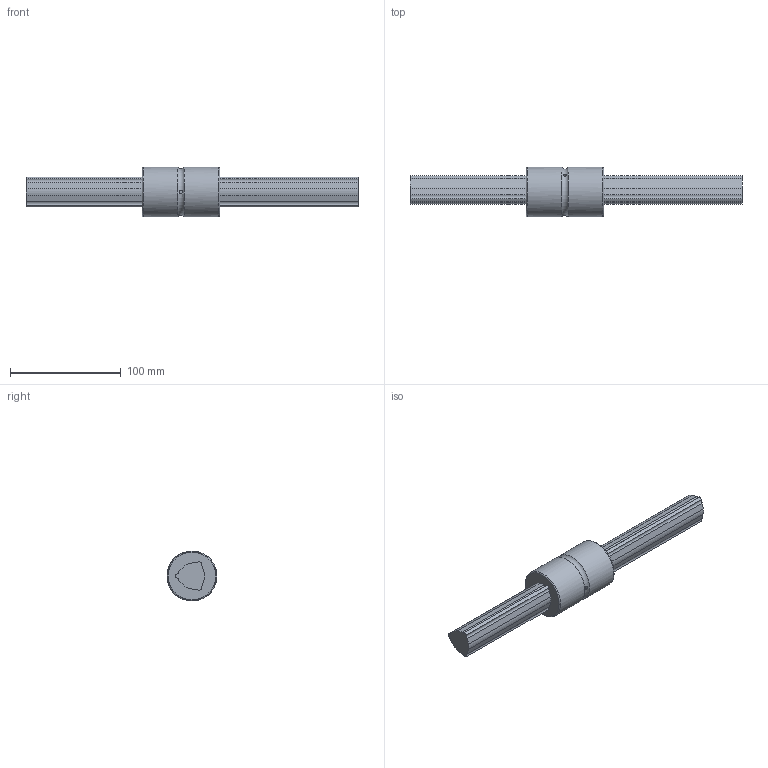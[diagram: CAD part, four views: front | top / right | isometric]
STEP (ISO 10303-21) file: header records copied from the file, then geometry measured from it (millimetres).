
FILE_DESCRIPTION(/* description */ ('STEP AP214'),/* implementation_level */ '2;1');
FILE_NAME(/* name */ 'LBS30+300L(701050)',/* time_stamp */ '2024-09-04T12:48:48+02:00',/* author */ ('License CC BY-ND 4.0'),/* organization */ ('CADENAS'),/* preprocessor_version */ 'ST-DEVELOPER v19.3',/* originating_system */ 'PARTsolutions',/* authorisation */ ' ');
FILE_SCHEMA (('AUTOMOTIVE_DESIGN {1 0 10303 214 3 1 1}'));
Length unit declared in the file: millimetre
Products named in the file (3): LBS30+300L(701050); LBS30 Nut; LBS301300 Spline Shaft
Assembly tree (2 placements, depth 2):
  LBS30+300L(701050)
    LBS30 Nut
    LBS301300 Spline Shaft
Bounding box: 300 x 45 x 45 mm (x, y, z)
Volume: 216550 mm3; surface area: 45145 mm2
Topology: 2 solids, 2 shells, 56 faces, 148 edges, 99 vertices
Faces by surface type: cylinder 31, plane 22, torus 3
Full cylindrical faces by diameter (mm): 3 x3, 45 x2
Entity records: 1797 total; most frequent: CARTESIAN_POINT 342, DIRECTION 306, ORIENTED_EDGE 272, EDGE_CURVE 136, AXIS2_PLACEMENT_3D 118, VERTEX_POINT 94, LINE 70, VECTOR 70
